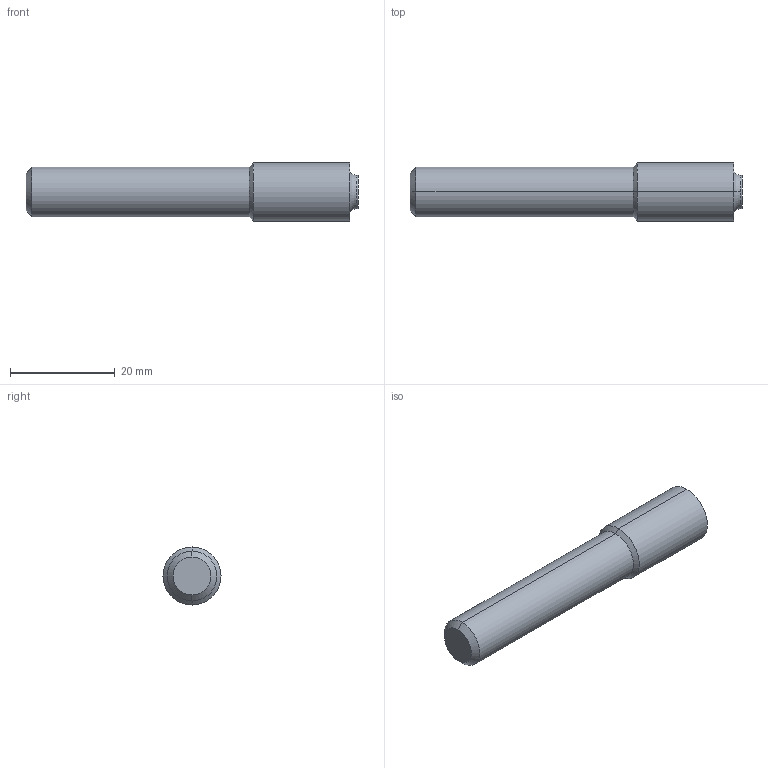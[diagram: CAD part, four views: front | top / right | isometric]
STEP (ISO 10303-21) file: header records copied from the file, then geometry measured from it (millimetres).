
FILE_DESCRIPTION (( 'STEP AP214' ), '1' );
FILE_NAME ('EQ237004.STEP', '2022-01-26T02:48:54', ( 'USER' ), ( '' ), 'SwSTEP 2.0', 'SolidWorks 2014', '' );
FILE_SCHEMA (( 'AUTOMOTIVE_DESIGN' ));
Length unit declared in the file: millimetre
Products named in the file (1): EQ237004
Bounding box: 63.5 x 11.11 x 11.11 mm (x, y, z)
Volume: 4934.6 mm3; surface area: 2127 mm2
Topology: 1 solids, 1 shells, 15 faces, 28 edges, 16 vertices
Faces by surface type: cylinder 6, cone 4, plane 3, torus 2
Entity records: 410 total; most frequent: DIRECTION 78, CARTESIAN_POINT 60, ORIENTED_EDGE 56, AXIS2_PLACEMENT_3D 34, EDGE_CURVE 28, CIRCLE 18, VERTEX_POINT 16, EDGE_LOOP 16
